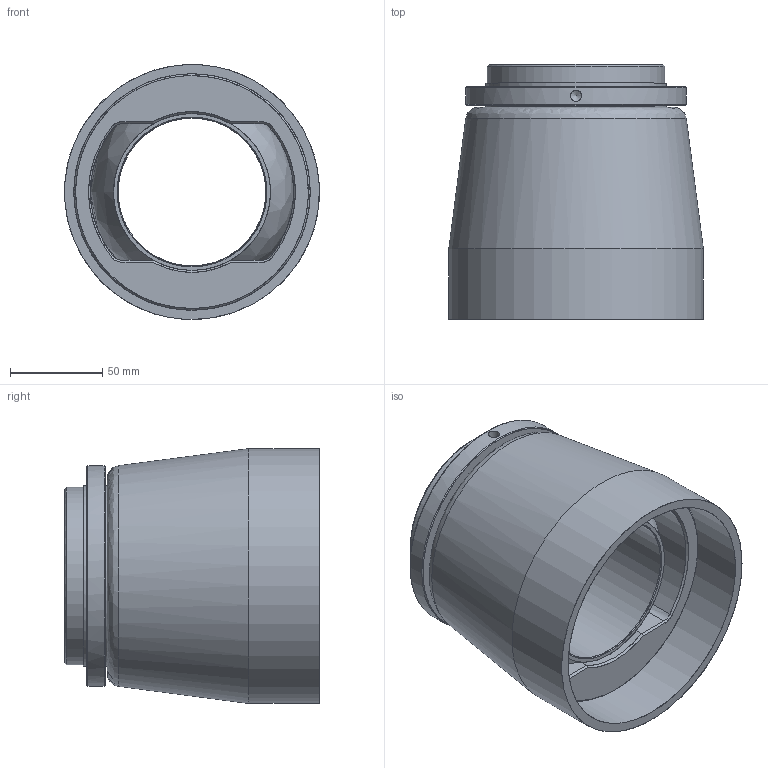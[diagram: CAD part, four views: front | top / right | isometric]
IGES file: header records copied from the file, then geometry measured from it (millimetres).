
Start section: Missler Software 3 rue Hermes, EUROPARC, 31520 Ramonville-Saint-Agne, France Tel   : +33 (0)5 61 00 03 00 Fax   : +33 (0)5 61 00 03 03 Email : sup.solid@topsolid.com
Global section: file name: Z:\J\Jp3\Palier\Palier-type1\3D TopSolid 2011\Serie 10.xx.xx\10.14.xx\10.14.08.igs; native system: TopSolid v611200 Missler Software; preprocessor: IGES preprocessor v100000; author: TAPIN; date: 120223.142910; units: millimetre
Bounding box: 138 x 137.86 x 138 mm (x, y, z)
Surface area: 237701.3 mm2 (no closed solid volume)
Topology: 0 solids, 0 shells, 65 faces, 1032 edges, 1007 vertices
Faces by surface type: bspline 65
